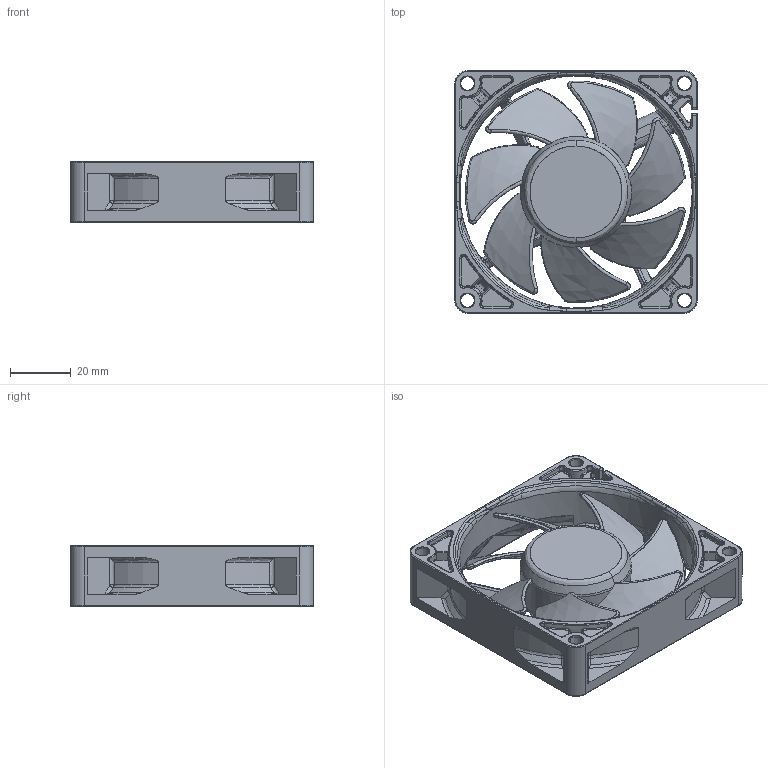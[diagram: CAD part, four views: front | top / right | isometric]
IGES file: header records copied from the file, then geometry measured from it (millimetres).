
Start section: SolidWorks IGES file using analytic representation for surfaces
Bounding box: 80 x 80 x 20 mm (x, y, z)
Surface area: 29457 mm2 (no closed solid volume)
Topology: 0 solids, 0 shells, 1101 faces, 9227 edges, 9174 vertices
Faces by surface type: bspline 757, revolution 344
